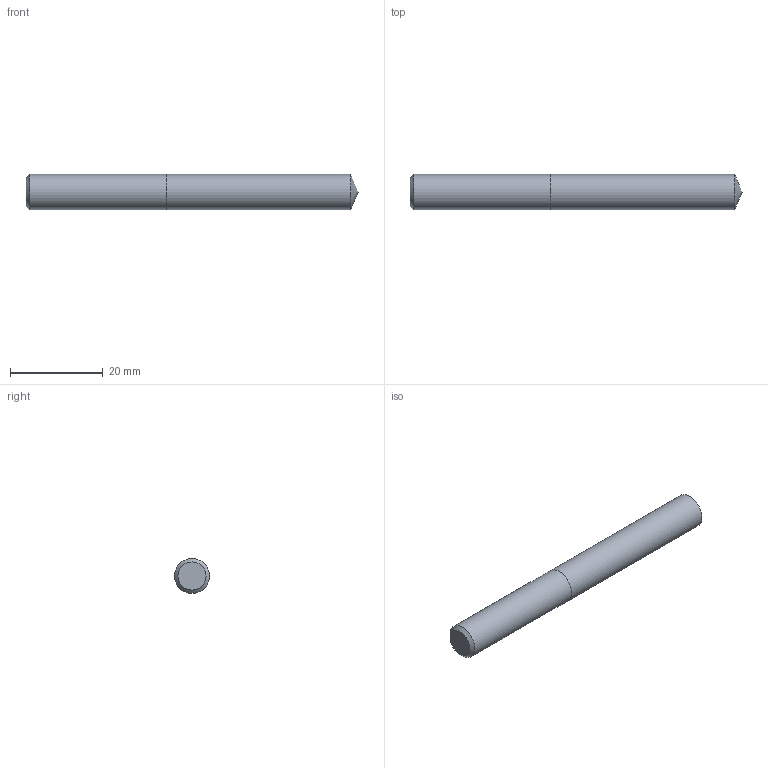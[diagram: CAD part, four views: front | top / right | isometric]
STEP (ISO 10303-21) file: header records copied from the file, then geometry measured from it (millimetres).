
FILE_DESCRIPTION (( 'STEP AP214' ), '1' );
FILE_NAME ('03-2418.STEP', '2022-06-03T07:30:37', ( 'USER' ), ( '' ), 'SwSTEP 2.0', 'SolidWorks 2018', '' );
FILE_SCHEMA (( 'AUTOMOTIVE_DESIGN' ));
Length unit declared in the file: inch
Products named in the file (1): 03-2418
Bounding box: 71.41 x 7.54 x 7.54 mm (x, y, z)
Volume: 3136.4 mm3; surface area: 1825.8 mm2
Topology: 2 solids, 2 shells, 7 faces, 11 edges, 7 vertices
Faces by surface type: plane 3, cylinder 2, cone 2
Full cylindrical faces by diameter (mm): 7.541 x2
Entity records: 214 total; most frequent: DIRECTION 26, CARTESIAN_POINT 18, AXIS2_PLACEMENT_3D 13, EDGE_LOOP 10, ORIENTED_EDGE 10, FACE_OUTER_BOUND 9, DIMENSIONAL_EXPONENTS 7, LENGTH_MEASURE_WITH_UNIT 7
